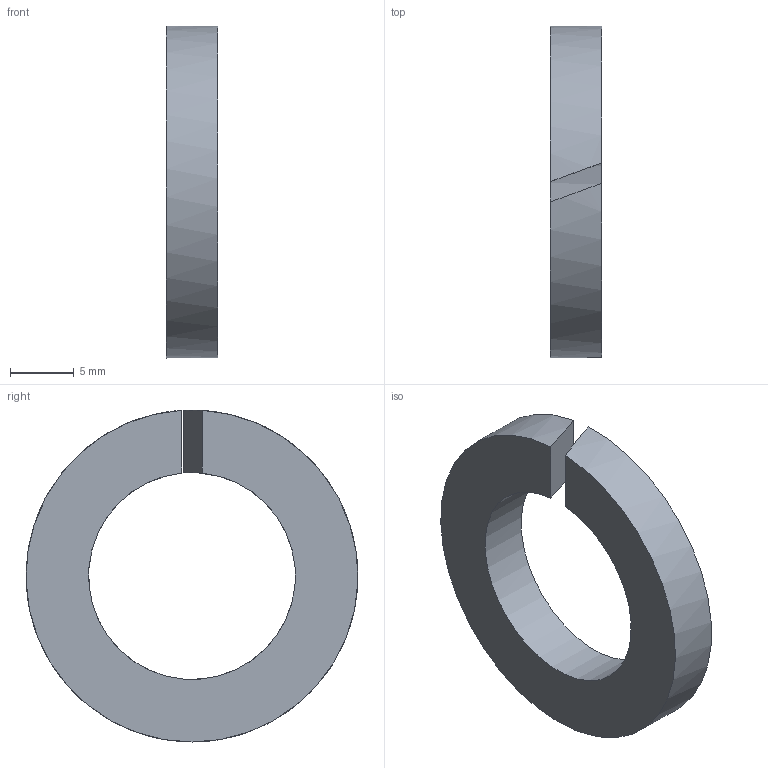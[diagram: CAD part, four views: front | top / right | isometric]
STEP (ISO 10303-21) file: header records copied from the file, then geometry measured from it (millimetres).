
FILE_DESCRIPTION(/* description */ ('스프링 잠금 와셔'),/* implementation_level */ '2;1');
FILE_NAME(/* name */ '',/* time_stamp */ '2025-01-09T17:58:55+09:00',/* author */ ('jhkim'),/* organization */ (''),/* preprocessor_version */ 'ST-DEVELOPER v20',/* originating_system */ 'Autodesk Inventor 2025',/* authorisation */ '');
FILE_SCHEMA (('AUTOMOTIVE_DESIGN { 1 0 10303 214 3 1 1 }'));
Length unit declared in the file: millimetre
Products named in the file (1): 스프링 와셔 M16
Bounding box: 4 x 25.99 x 26 mm (x, y, z)
Volume: 1267.7 mm3; surface area: 1193.3 mm2
Topology: 1 solids, 1 shells, 6 faces, 12 edges, 8 vertices
Faces by surface type: plane 4, cylinder 2
Entity records: 207 total; most frequent: DIRECTION 34, CARTESIAN_POINT 27, ORIENTED_EDGE 24, AXIS2_PLACEMENT_3D 15, EDGE_CURVE 12, VERTEX_POINT 8, FACE_OUTER_BOUND 6, EDGE_LOOP 6
